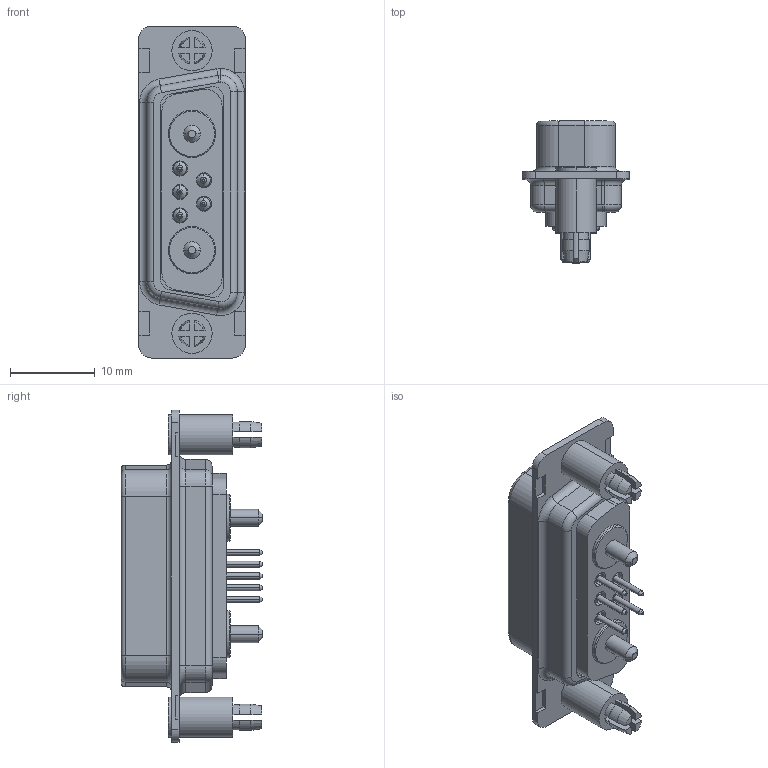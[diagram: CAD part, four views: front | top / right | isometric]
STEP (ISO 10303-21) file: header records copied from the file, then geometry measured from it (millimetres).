
FILE_DESCRIPTION (( 'STEP AP214' ), '1' );
FILE_NAME ('CBD7W2M35S6000.STEP', '2008-12-08T13:20:14', ( ' ' ), ( '' ), 'SwSTEP 2.0', 'SolidWorks 2008', '' );
FILE_SCHEMA (( 'AUTOMOTIVE_DESIGN' ));
Length unit declared in the file: inch
Products named in the file (1): CBD7W2M35S6000
Bounding box: 12.55 x 16.71 x 39.14 mm (x, y, z)
Volume: 2235.8 mm3; surface area: 3083.8 mm2
Topology: 1 solids, 1 shells, 404 faces, 1012 edges, 640 vertices
Faces by surface type: cylinder 199, plane 107, cone 58, torus 26, sphere 10, bspline 4
Entity records: 18598 total; most frequent: CARTESIAN_POINT 3933, DIRECTION 1997, ORIENTED_EDGE 1976, EDGE_CURVE 988, AXIS2_PLACEMENT_3D 776, VERTEX_POINT 630, EDGE_LOOP 448, VECTOR 445
